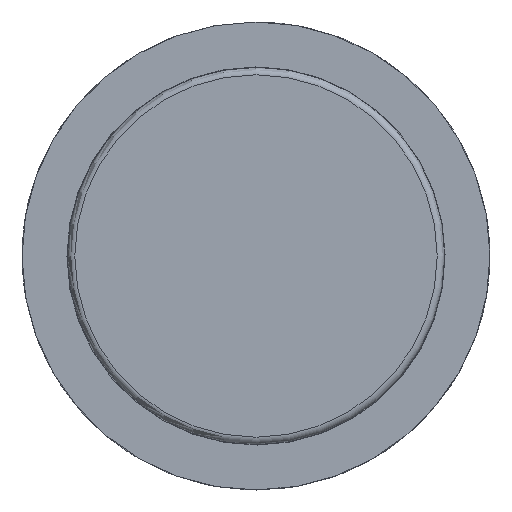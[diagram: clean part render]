
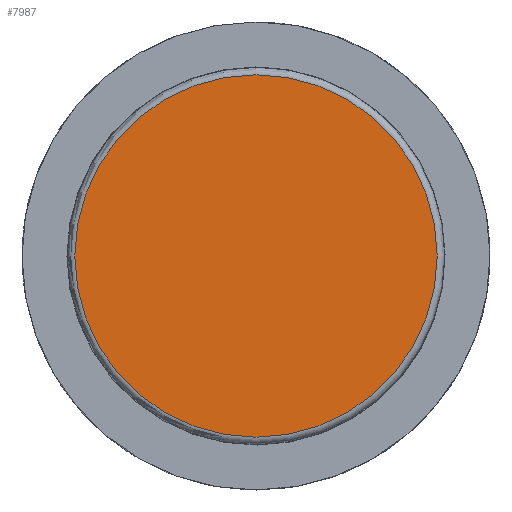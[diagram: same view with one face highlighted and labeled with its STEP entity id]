
A CAD part, front view. The second image highlights one B-rep face of the part: STEP entity #7987.
In plain terms, the highlighted planar face has unit normal (0, -1, 0).
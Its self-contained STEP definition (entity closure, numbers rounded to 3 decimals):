
#7987=ADVANCED_FACE('',(#14815),#14817,.T.);
#14815=FACE_BOUND('',#14816,.T.);
#14816=EDGE_LOOP('',(#19982));
#14817=PLANE('',#14818);
#14818=AXIS2_PLACEMENT_3D('',#14819,#14820,#14821);
#14819=CARTESIAN_POINT('',(0.,-1072.405,77.714));
#14820=DIRECTION('',(0.,-1.,0.));
#14821=DIRECTION('',(0.,0.,-1.));
#19982=ORIENTED_EDGE('',*,*,#22572,.F.);
#22572=EDGE_CURVE('',#26856,#26856,#26857,.T.);
#26856=VERTEX_POINT('',#40802);
#26857=CIRCLE('',#40803,127.);
#40802=CARTESIAN_POINT('',(0.,-1072.405,-49.286));
#40803=AXIS2_PLACEMENT_3D('',#40804,#40805,#40806);
#40804=CARTESIAN_POINT('',(0.,-1072.405,77.714));
#40805=DIRECTION('',(0.,1.,0.));
#40806=DIRECTION('',(0.,0.,1.));
